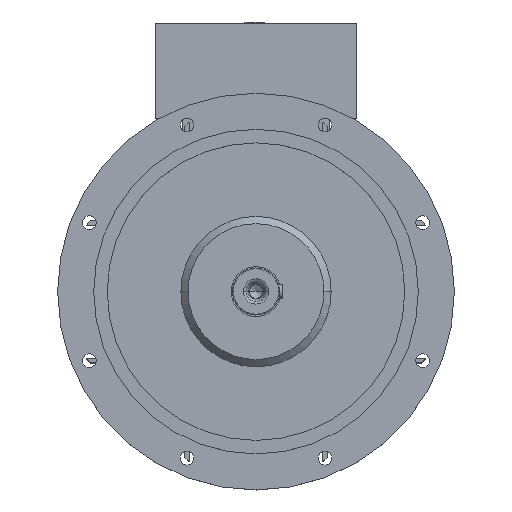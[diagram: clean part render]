
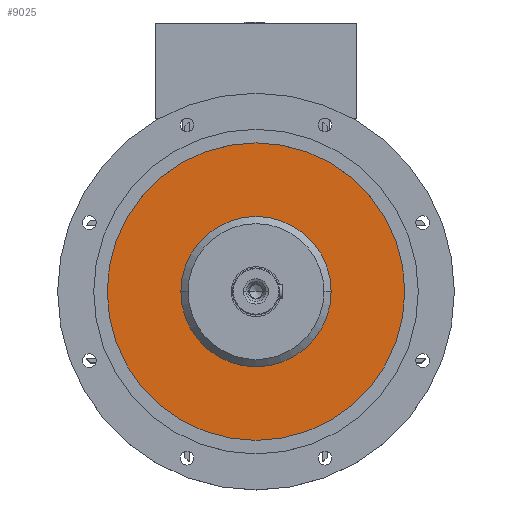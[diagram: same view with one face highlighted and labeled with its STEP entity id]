
A CAD part, top view. The second image highlights one B-rep face of the part: STEP entity #9025.
In plain terms, the highlighted planar face has unit normal (0, 0, 1).
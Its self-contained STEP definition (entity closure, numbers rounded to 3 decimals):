
#542 = DIRECTION ( 'NONE',  ( -1., 0., 0. ) ) ;
#616 = AXIS2_PLACEMENT_3D ( 'NONE', #11174, #22653, #20714 ) ;
#759 = DIRECTION ( 'NONE',  ( -1., 0., 0. ) ) ;
#1418 = ORIENTED_EDGE ( 'NONE', *, *, #22090, .T. ) ;
#1439 = EDGE_CURVE ( 'NONE', #17885, #19117, #17475, .T. ) ;
#1757 = CIRCLE ( 'NONE', #21387, 206.25 ) ;
#2023 = CARTESIAN_POINT ( 'NONE',  ( -206.25, 0., 330.5 ) ) ;
#2559 = CARTESIAN_POINT ( 'NONE',  ( -104.2, 0., 330.5 ) ) ;
#2972 = CARTESIAN_POINT ( 'NONE',  ( 0., 0., 330.5 ) ) ;
#4451 = CARTESIAN_POINT ( 'NONE',  ( 0., 0., 330.5 ) ) ;
#5629 = CARTESIAN_POINT ( 'NONE',  ( 206.25, 0., 330.5 ) ) ;
#6835 = AXIS2_PLACEMENT_3D ( 'NONE', #4451, #10314, #8330 ) ;
#8330 = DIRECTION ( 'NONE',  ( -1., 0., 0. ) ) ;
#8386 = VERTEX_POINT ( 'NONE', #8833 ) ;
#8742 = EDGE_LOOP ( 'NONE', ( #21512, #1418 ) ) ;
#8833 = CARTESIAN_POINT ( 'NONE',  ( 104.2, 0., 330.5 ) ) ;
#9025 = ADVANCED_FACE ( 'NONE', ( #15213, #22265 ), #18905, .T. ) ;
#10098 = DIRECTION ( 'NONE',  ( 0., 0., -1. ) ) ;
#10314 = DIRECTION ( 'NONE',  ( 0., 0., -1. ) ) ;
#11174 = CARTESIAN_POINT ( 'NONE',  ( 0., 206.25, 330.5 ) ) ;
#11567 = CIRCLE ( 'NONE', #6835, 104.2 ) ;
#13125 = CARTESIAN_POINT ( 'NONE',  ( 0., 0., 330.5 ) ) ;
#13828 = VERTEX_POINT ( 'NONE', #2559 ) ;
#15018 = DIRECTION ( 'NONE',  ( 0., 0., 1. ) ) ;
#15213 = FACE_OUTER_BOUND ( 'NONE', #21048, .T. ) ;
#15382 = EDGE_CURVE ( 'NONE', #13828, #8386, #11567, .T. ) ;
#15574 = ORIENTED_EDGE ( 'NONE', *, *, #1439, .T. ) ;
#16659 = DIRECTION ( 'NONE',  ( 0., 0., 1. ) ) ;
#17475 = CIRCLE ( 'NONE', #19679, 206.25 ) ;
#17807 = AXIS2_PLACEMENT_3D ( 'NONE', #17993, #10098, #542 ) ;
#17885 = VERTEX_POINT ( 'NONE', #2023 ) ;
#17993 = CARTESIAN_POINT ( 'NONE',  ( 0., 0., 330.5 ) ) ;
#18905 = PLANE ( 'NONE',  #616 ) ;
#19117 = VERTEX_POINT ( 'NONE', #5629 ) ;
#19447 = EDGE_CURVE ( 'NONE', #19117, #17885, #1757, .T. ) ;
#19679 = AXIS2_PLACEMENT_3D ( 'NONE', #2972, #16659, #759 ) ;
#20714 = DIRECTION ( 'NONE',  ( 1., 0., 0. ) ) ;
#21048 = EDGE_LOOP ( 'NONE', ( #15574, #25039 ) ) ;
#21387 = AXIS2_PLACEMENT_3D ( 'NONE', #13125, #15018, #22983 ) ;
#21512 = ORIENTED_EDGE ( 'NONE', *, *, #15382, .T. ) ;
#22090 = EDGE_CURVE ( 'NONE', #8386, #13828, #22841, .T. ) ;
#22265 = FACE_BOUND ( 'NONE', #8742, .T. ) ;
#22653 = DIRECTION ( 'NONE',  ( 0., 0., 1. ) ) ;
#22841 = CIRCLE ( 'NONE', #17807, 104.2 ) ;
#22983 = DIRECTION ( 'NONE',  ( -1., 0., 0. ) ) ;
#25039 = ORIENTED_EDGE ( 'NONE', *, *, #19447, .T. ) ;
